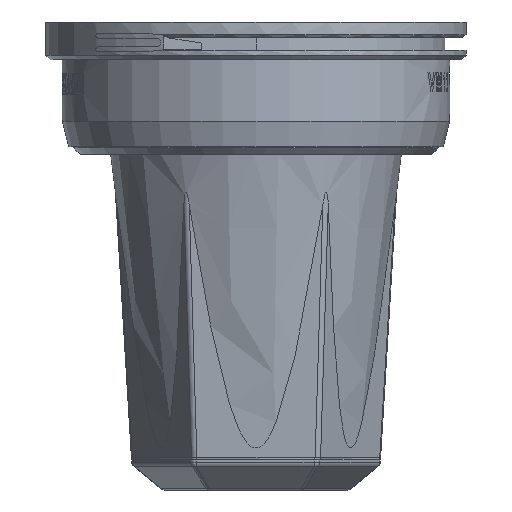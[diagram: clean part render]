
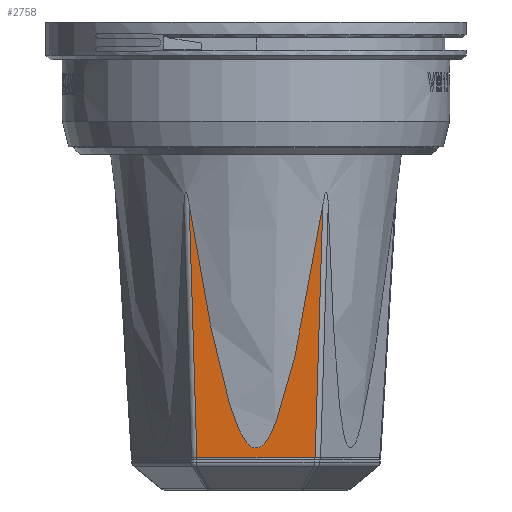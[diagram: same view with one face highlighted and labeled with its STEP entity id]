
A CAD part, left-side view. The second image highlights one B-rep face of the part: STEP entity #2758.
In plain terms, the highlighted planar face has unit normal (-0.999, 0, -0.052).
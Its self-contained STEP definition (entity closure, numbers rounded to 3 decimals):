
#1903=B_SPLINE_CURVE_WITH_KNOTS('',3,(#9839,#9840,#9841,#9842,#9843,#9844,
#9845,#9846,#9847,#9848,#9849,#9850,#9851,#9852,#9853,#9854,#9855,#9856,
#9857,#9858,#9859,#9860,#9861,#9862,#9863,#9864),.UNSPECIFIED.,.F.,.F.,(4,
2,2,2,2,2,2,2,2,2,2,2,4),(0.,0.25,0.375,0.437,
0.469,0.484,0.5,0.516,
0.531,0.562,0.625,0.75,
1.),.UNSPECIFIED.);
#2758=ADVANCED_FACE('',(#3068),#2924,.F.);
#2924=PLANE('',#7516);
#3068=FACE_OUTER_BOUND('',#3364,.T.);
#3364=EDGE_LOOP('',(#4480,#4481,#4482,#4483));
#3657=LINE('',#9617,#3839);
#3667=LINE('',#9816,#3849);
#3668=LINE('',#9837,#3850);
#3839=VECTOR('',#8423,1.);
#3849=VECTOR('',#8449,1.);
#3850=VECTOR('',#8452,1.);
#4480=ORIENTED_EDGE('',*,*,#6499,.T.);
#4481=ORIENTED_EDGE('',*,*,#6475,.T.);
#4482=ORIENTED_EDGE('',*,*,#6497,.T.);
#4483=ORIENTED_EDGE('',*,*,#6500,.T.);
#5732=VERTEX_POINT('',#9608);
#5733=VERTEX_POINT('',#9618);
#5744=VERTEX_POINT('',#9817);
#5745=VERTEX_POINT('',#9838);
#6475=EDGE_CURVE('',#5733,#5732,#3657,.T.);
#6497=EDGE_CURVE('',#5732,#5744,#3667,.T.);
#6499=EDGE_CURVE('',#5745,#5733,#3668,.T.);
#6500=EDGE_CURVE('',#5744,#5745,#1903,.T.);
#7516=AXIS2_PLACEMENT_3D('',#9865,#8453,#8454);
#8423=DIRECTION('',(0.,-1.,0.));
#8449=DIRECTION('',(-0.052,-0.03,0.998));
#8452=DIRECTION('',(0.052,-0.03,-0.998));
#8453=DIRECTION('',(0.999,0.,0.052));
#8454=DIRECTION('',(0.,1.,0.));
#9608=CARTESIAN_POINT('',(-17.272,-9.395,-67.647));
#9617=CARTESIAN_POINT('',(-17.272,-9.39,-67.647));
#9618=CARTESIAN_POINT('',(-17.272,9.395,-67.647));
#9816=CARTESIAN_POINT('',(-16.97,-9.221,-73.411));
#9817=CARTESIAN_POINT('',(-19.371,-10.607,-27.596));
#9837=CARTESIAN_POINT('',(-17.001,9.239,-72.82));
#9838=CARTESIAN_POINT('',(-19.371,10.607,-27.596));
#9839=CARTESIAN_POINT('',(-19.371,-10.607,-27.596));
#9840=CARTESIAN_POINT('',(-19.02,-9.537,-34.289));
#9841=CARTESIAN_POINT('',(-18.67,-8.406,-40.97));
#9842=CARTESIAN_POINT('',(-18.149,-6.357,-50.921));
#9843=CARTESIAN_POINT('',(-17.975,-5.623,-54.227));
#9844=CARTESIAN_POINT('',(-17.718,-4.238,-59.13));
#9845=CARTESIAN_POINT('',(-17.633,-3.732,-60.765));
#9846=CARTESIAN_POINT('',(-17.508,-2.756,-63.136));
#9847=CARTESIAN_POINT('',(-17.467,-2.397,-63.919));
#9848=CARTESIAN_POINT('',(-17.411,-1.704,-64.999));
#9849=CARTESIAN_POINT('',(-17.393,-1.45,-65.344));
#9850=CARTESIAN_POINT('',(-17.362,-0.814,-65.93));
#9851=CARTESIAN_POINT('',(-17.35,-0.414,-66.166));
#9852=CARTESIAN_POINT('',(-17.35,0.446,-66.155));
#9853=CARTESIAN_POINT('',(-17.363,0.842,-65.911));
#9854=CARTESIAN_POINT('',(-17.394,1.472,-65.318));
#9855=CARTESIAN_POINT('',(-17.412,1.723,-64.973));
#9856=CARTESIAN_POINT('',(-17.469,2.409,-63.894));
#9857=CARTESIAN_POINT('',(-17.51,2.767,-63.112));
#9858=CARTESIAN_POINT('',(-17.633,3.733,-60.76));
#9859=CARTESIAN_POINT('',(-17.718,4.235,-59.141));
#9860=CARTESIAN_POINT('',(-17.975,5.62,-54.241));
#9861=CARTESIAN_POINT('',(-18.148,6.355,-50.928));
#9862=CARTESIAN_POINT('',(-18.67,8.406,-40.973));
#9863=CARTESIAN_POINT('',(-19.02,9.537,-34.29));
#9864=CARTESIAN_POINT('',(-19.371,10.607,-27.596));
#9865=CARTESIAN_POINT('',(-17.,9.815,-72.837));
